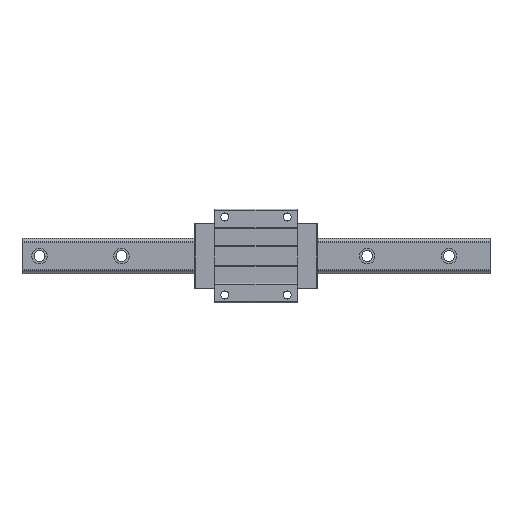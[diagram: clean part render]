
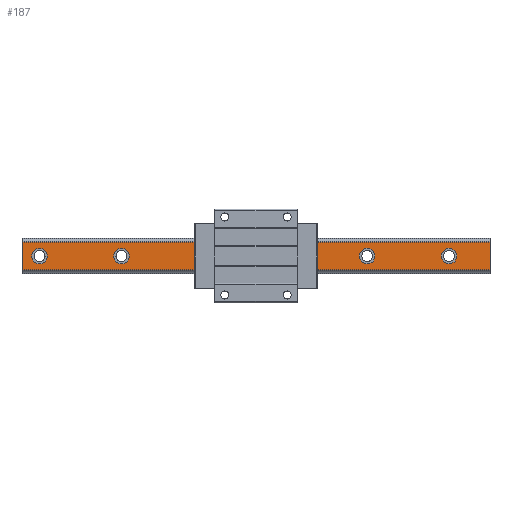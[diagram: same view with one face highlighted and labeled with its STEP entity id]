
A CAD part, top view. The second image highlights one B-rep face of the part: STEP entity #187.
In plain terms, the highlighted planar face has unit normal (0, 0, 1).
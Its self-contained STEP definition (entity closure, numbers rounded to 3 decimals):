
#35 = AXIS2_PLACEMENT_3D ( 'NONE', #1956, #5800, #5284 ) ;
#47 = CARTESIAN_POINT ( 'NONE',  ( 237.5, 0., 32. ) ) ;
#89 = AXIS2_PLACEMENT_3D ( 'NONE', #4099, #4176, #3584 ) ;
#173 = PLANE ( 'NONE',  #89 ) ;
#187 = ADVANCED_FACE ( 'NONE', ( #1850, #6409, #4661, #2987, #1816, #3054, #1291 ), #173, .F. ) ;
#188 = EDGE_LOOP ( 'NONE', ( #3695, #6229, #4871, #2753 ) ) ;
#197 = CARTESIAN_POINT ( 'NONE',  ( 300., 17.738, 32. ) ) ;
#220 = CIRCLE ( 'NONE', #7007, 10. ) ;
#253 = EDGE_LOOP ( 'NONE', ( #2887, #3821 ) ) ;
#284 = AXIS2_PLACEMENT_3D ( 'NONE', #3326, #3405, #4487 ) ;
#289 = DIRECTION ( 'NONE',  ( 0., 0., 1. ) ) ;
#347 = CIRCLE ( 'NONE', #3324, 10. ) ;
#417 = CARTESIAN_POINT ( 'NONE',  ( -300., -17.738, 32. ) ) ;
#497 = DIRECTION ( 'NONE',  ( 1., 0., 0. ) ) ;
#670 = CARTESIAN_POINT ( 'NONE',  ( -300., -17.738, 32. ) ) ;
#925 = DIRECTION ( 'NONE',  ( 1., 0., 0. ) ) ;
#1082 = VERTEX_POINT ( 'NONE', #3280 ) ;
#1291 = FACE_OUTER_BOUND ( 'NONE', #188, .T. ) ;
#1303 = VECTOR ( 'NONE', #7347, 1000. ) ;
#1350 = CARTESIAN_POINT ( 'NONE',  ( -57.5, 0., 32. ) ) ;
#1384 = DIRECTION ( 'NONE',  ( 0., 0., 1. ) ) ;
#1502 = DIRECTION ( 'NONE',  ( 1., 0., 0. ) ) ;
#1557 = CARTESIAN_POINT ( 'NONE',  ( 132.5, 0., 32. ) ) ;
#1577 = DIRECTION ( 'NONE',  ( 0., 0., 1. ) ) ;
#1589 = ORIENTED_EDGE ( 'NONE', *, *, #7148, .F. ) ;
#1594 = EDGE_CURVE ( 'NONE', #1943, #1924, #7124, .T. ) ;
#1607 = ORIENTED_EDGE ( 'NONE', *, *, #1997, .F. ) ;
#1608 = EDGE_LOOP ( 'NONE', ( #4470, #6115 ) ) ;
#1691 = VERTEX_POINT ( 'NONE', #47 ) ;
#1730 = CARTESIAN_POINT ( 'NONE',  ( 247.5, 0., 32. ) ) ;
#1753 = VERTEX_POINT ( 'NONE', #5170 ) ;
#1768 = CARTESIAN_POINT ( 'NONE',  ( 300., -17.738, 32. ) ) ;
#1784 = EDGE_LOOP ( 'NONE', ( #6462, #3182 ) ) ;
#1807 = EDGE_CURVE ( 'NONE', #3687, #2241, #347, .T. ) ;
#1816 = FACE_BOUND ( 'NONE', #2077, .T. ) ;
#1850 = FACE_BOUND ( 'NONE', #1784, .T. ) ;
#1891 = DIRECTION ( 'NONE',  ( 1., 0., 0. ) ) ;
#1910 = DIRECTION ( 'NONE',  ( 0., 0., 1. ) ) ;
#1913 = EDGE_CURVE ( 'NONE', #1924, #1943, #220, .T. ) ;
#1924 = VERTEX_POINT ( 'NONE', #1350 ) ;
#1929 = DIRECTION ( 'NONE',  ( 0., 0., 1. ) ) ;
#1943 = VERTEX_POINT ( 'NONE', #6586 ) ;
#1956 = CARTESIAN_POINT ( 'NONE',  ( -172.5, 0., 32. ) ) ;
#1993 = CARTESIAN_POINT ( 'NONE',  ( 142.5, 0., 32. ) ) ;
#1997 = EDGE_CURVE ( 'NONE', #1082, #6112, #6422, .T. ) ;
#2077 = EDGE_LOOP ( 'NONE', ( #3940, #3429 ) ) ;
#2241 = VERTEX_POINT ( 'NONE', #3029 ) ;
#2254 = DIRECTION ( 'NONE',  ( 0., 0., 1. ) ) ;
#2381 = CARTESIAN_POINT ( 'NONE',  ( 300., -17.738, 32. ) ) ;
#2434 = CIRCLE ( 'NONE', #35, 10. ) ;
#2444 = CARTESIAN_POINT ( 'NONE',  ( -277.5, 0., 32. ) ) ;
#2522 = AXIS2_PLACEMENT_3D ( 'NONE', #3314, #5555, #925 ) ;
#2560 = CARTESIAN_POINT ( 'NONE',  ( 27.5, 0., 32. ) ) ;
#2703 = VERTEX_POINT ( 'NONE', #670 ) ;
#2706 = CARTESIAN_POINT ( 'NONE',  ( -300., 17.738, 32. ) ) ;
#2753 = ORIENTED_EDGE ( 'NONE', *, *, #5579, .T. ) ;
#2783 = VECTOR ( 'NONE', #5141, 1000. ) ;
#2826 = EDGE_CURVE ( 'NONE', #2241, #3687, #5878, .T. ) ;
#2837 = AXIS2_PLACEMENT_3D ( 'NONE', #6628, #6700, #5021 ) ;
#2887 = ORIENTED_EDGE ( 'NONE', *, *, #1913, .F. ) ;
#2891 = CARTESIAN_POINT ( 'NONE',  ( -182.5, 0., 32. ) ) ;
#2896 = LINE ( 'NONE', #197, #6325 ) ;
#2956 = VERTEX_POINT ( 'NONE', #1557 ) ;
#2987 = FACE_BOUND ( 'NONE', #253, .T. ) ;
#3002 = CARTESIAN_POINT ( 'NONE',  ( -172.5, 0., 32. ) ) ;
#3006 = DIRECTION ( 'NONE',  ( 1., 0., 0. ) ) ;
#3029 = CARTESIAN_POINT ( 'NONE',  ( -267.5, 0., 32. ) ) ;
#3054 = FACE_BOUND ( 'NONE', #7353, .T. ) ;
#3055 = CARTESIAN_POINT ( 'NONE',  ( -277.5, 0., 32. ) ) ;
#3136 = EDGE_CURVE ( 'NONE', #3782, #7127, #5178, .T. ) ;
#3182 = ORIENTED_EDGE ( 'NONE', *, *, #4607, .F. ) ;
#3211 = AXIS2_PLACEMENT_3D ( 'NONE', #7136, #1577, #1502 ) ;
#3280 = CARTESIAN_POINT ( 'NONE',  ( 47.5, 0., 32. ) ) ;
#3293 = VERTEX_POINT ( 'NONE', #2706 ) ;
#3314 = CARTESIAN_POINT ( 'NONE',  ( 142.5, 0., 32. ) ) ;
#3324 = AXIS2_PLACEMENT_3D ( 'NONE', #2444, #1384, #3006 ) ;
#3326 = CARTESIAN_POINT ( 'NONE',  ( 37.5, 0., 32. ) ) ;
#3354 = CIRCLE ( 'NONE', #2522, 10. ) ;
#3360 = EDGE_CURVE ( 'NONE', #3293, #2703, #4864, .T. ) ;
#3384 = CARTESIAN_POINT ( 'NONE',  ( -287.5, 0., 32. ) ) ;
#3405 = DIRECTION ( 'NONE',  ( 0., 0., 1. ) ) ;
#3429 = ORIENTED_EDGE ( 'NONE', *, *, #3735, .F. ) ;
#3584 = DIRECTION ( 'NONE',  ( 0., -1., 0. ) ) ;
#3618 = DIRECTION ( 'NONE',  ( 1., 0., 0. ) ) ;
#3674 = DIRECTION ( 'NONE',  ( 1., 0., 0. ) ) ;
#3687 = VERTEX_POINT ( 'NONE', #3384 ) ;
#3695 = ORIENTED_EDGE ( 'NONE', *, *, #3360, .T. ) ;
#3735 = EDGE_CURVE ( 'NONE', #6364, #1753, #2434, .T. ) ;
#3782 = VERTEX_POINT ( 'NONE', #4353 ) ;
#3821 = ORIENTED_EDGE ( 'NONE', *, *, #1594, .F. ) ;
#3940 = ORIENTED_EDGE ( 'NONE', *, *, #4146, .F. ) ;
#3975 = EDGE_CURVE ( 'NONE', #5896, #1691, #5412, .T. ) ;
#4084 = DIRECTION ( 'NONE',  ( -1., 0., 0. ) ) ;
#4099 = CARTESIAN_POINT ( 'NONE',  ( 300., -17.738, 32. ) ) ;
#4146 = EDGE_CURVE ( 'NONE', #1753, #6364, #4610, .T. ) ;
#4151 = VERTEX_POINT ( 'NONE', #4794 ) ;
#4176 = DIRECTION ( 'NONE',  ( 0., 0., -1. ) ) ;
#4196 = DIRECTION ( 'NONE',  ( 0., 0., 1. ) ) ;
#4347 = AXIS2_PLACEMENT_3D ( 'NONE', #1730, #2254, #497 ) ;
#4353 = CARTESIAN_POINT ( 'NONE',  ( 300., 17.738, 32. ) ) ;
#4376 = CIRCLE ( 'NONE', #4730, 10. ) ;
#4470 = ORIENTED_EDGE ( 'NONE', *, *, #4979, .F. ) ;
#4487 = DIRECTION ( 'NONE',  ( 1., 0., 0. ) ) ;
#4607 = EDGE_CURVE ( 'NONE', #1691, #5896, #4376, .T. ) ;
#4610 = CIRCLE ( 'NONE', #5675, 10. ) ;
#4661 = FACE_BOUND ( 'NONE', #4728, .T. ) ;
#4728 = EDGE_LOOP ( 'NONE', ( #1607, #1589 ) ) ;
#4730 = AXIS2_PLACEMENT_3D ( 'NONE', #6997, #289, #1891 ) ;
#4794 = CARTESIAN_POINT ( 'NONE',  ( 152.5, 0., 32. ) ) ;
#4864 = LINE ( 'NONE', #417, #7291 ) ;
#4871 = ORIENTED_EDGE ( 'NONE', *, *, #3136, .F. ) ;
#4972 = CIRCLE ( 'NONE', #6759, 10. ) ;
#4979 = EDGE_CURVE ( 'NONE', #4151, #2956, #4972, .T. ) ;
#5021 = DIRECTION ( 'NONE',  ( 1., 0., 0. ) ) ;
#5037 = AXIS2_PLACEMENT_3D ( 'NONE', #3055, #1929, #3618 ) ;
#5039 = ORIENTED_EDGE ( 'NONE', *, *, #2826, .F. ) ;
#5141 = DIRECTION ( 'NONE',  ( 0., -1., 0. ) ) ;
#5168 = LINE ( 'NONE', #1768, #1303 ) ;
#5170 = CARTESIAN_POINT ( 'NONE',  ( -162.5, 0., 32. ) ) ;
#5178 = LINE ( 'NONE', #2381, #2783 ) ;
#5284 = DIRECTION ( 'NONE',  ( 1., 0., 0. ) ) ;
#5412 = CIRCLE ( 'NONE', #4347, 10. ) ;
#5499 = DIRECTION ( 'NONE',  ( 0., -1., 0. ) ) ;
#5555 = DIRECTION ( 'NONE',  ( 0., 0., 1. ) ) ;
#5579 = EDGE_CURVE ( 'NONE', #3782, #3293, #2896, .T. ) ;
#5675 = AXIS2_PLACEMENT_3D ( 'NONE', #3002, #1910, #3674 ) ;
#5800 = DIRECTION ( 'NONE',  ( 0., 0., 1. ) ) ;
#5801 = DIRECTION ( 'NONE',  ( 1., 0., 0. ) ) ;
#5843 = DIRECTION ( 'NONE',  ( 0., 0., 1. ) ) ;
#5878 = CIRCLE ( 'NONE', #5037, 10. ) ;
#5896 = VERTEX_POINT ( 'NONE', #7154 ) ;
#5974 = EDGE_CURVE ( 'NONE', #2956, #4151, #3354, .T. ) ;
#6112 = VERTEX_POINT ( 'NONE', #2560 ) ;
#6115 = ORIENTED_EDGE ( 'NONE', *, *, #5974, .F. ) ;
#6229 = ORIENTED_EDGE ( 'NONE', *, *, #6334, .F. ) ;
#6325 = VECTOR ( 'NONE', #4084, 1000. ) ;
#6334 = EDGE_CURVE ( 'NONE', #7127, #2703, #5168, .T. ) ;
#6364 = VERTEX_POINT ( 'NONE', #2891 ) ;
#6409 = FACE_BOUND ( 'NONE', #1608, .T. ) ;
#6422 = CIRCLE ( 'NONE', #3211, 10. ) ;
#6462 = ORIENTED_EDGE ( 'NONE', *, *, #3975, .F. ) ;
#6469 = DIRECTION ( 'NONE',  ( 1., 0., 0. ) ) ;
#6477 = ORIENTED_EDGE ( 'NONE', *, *, #1807, .F. ) ;
#6479 = CIRCLE ( 'NONE', #284, 10. ) ;
#6546 = CARTESIAN_POINT ( 'NONE',  ( -67.5, 0., 32. ) ) ;
#6586 = CARTESIAN_POINT ( 'NONE',  ( -77.5, 0., 32. ) ) ;
#6628 = CARTESIAN_POINT ( 'NONE',  ( -67.5, 0., 32. ) ) ;
#6684 = CARTESIAN_POINT ( 'NONE',  ( 300., -17.738, 32. ) ) ;
#6700 = DIRECTION ( 'NONE',  ( 0., 0., 1. ) ) ;
#6759 = AXIS2_PLACEMENT_3D ( 'NONE', #1993, #5843, #5801 ) ;
#6997 = CARTESIAN_POINT ( 'NONE',  ( 247.5, 0., 32. ) ) ;
#7007 = AXIS2_PLACEMENT_3D ( 'NONE', #6546, #4196, #6469 ) ;
#7124 = CIRCLE ( 'NONE', #2837, 10. ) ;
#7127 = VERTEX_POINT ( 'NONE', #6684 ) ;
#7136 = CARTESIAN_POINT ( 'NONE',  ( 37.5, 0., 32. ) ) ;
#7148 = EDGE_CURVE ( 'NONE', #6112, #1082, #6479, .T. ) ;
#7154 = CARTESIAN_POINT ( 'NONE',  ( 257.5, 0., 32. ) ) ;
#7291 = VECTOR ( 'NONE', #5499, 1000. ) ;
#7347 = DIRECTION ( 'NONE',  ( -1., 0., 0. ) ) ;
#7353 = EDGE_LOOP ( 'NONE', ( #5039, #6477 ) ) ;
